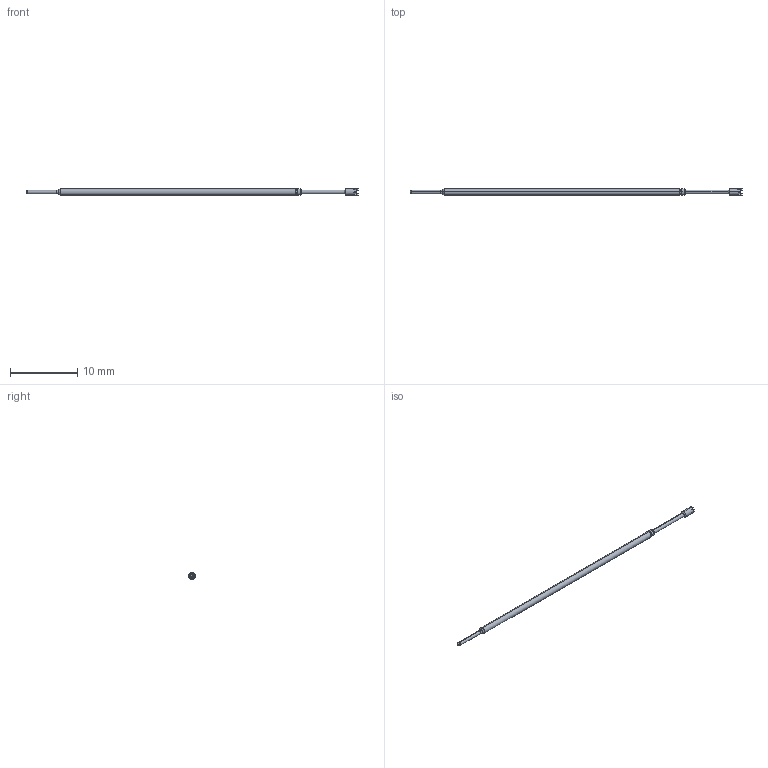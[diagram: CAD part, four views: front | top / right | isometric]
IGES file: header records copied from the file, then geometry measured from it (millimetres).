
Start section: SolidWorks IGES file using analytic representation for surfaces
Global section: file name: C:\Documents and Settings\mrumschlag\Desktop\changes\new\test\Z1.IGS; native system: SolidWorks 2011; preprocessor: SolidWorks 2011; author: mrumschlag; date: 110630.142320; units: inch
Bounding box: 49.28 x 0.97 x 0.97 mm (x, y, z)
Surface area: 136.9 mm2 (no closed solid volume)
Topology: 0 solids, 0 shells, 43 faces, 218 edges, 216 vertices
Faces by surface type: bspline 25, revolution 18
